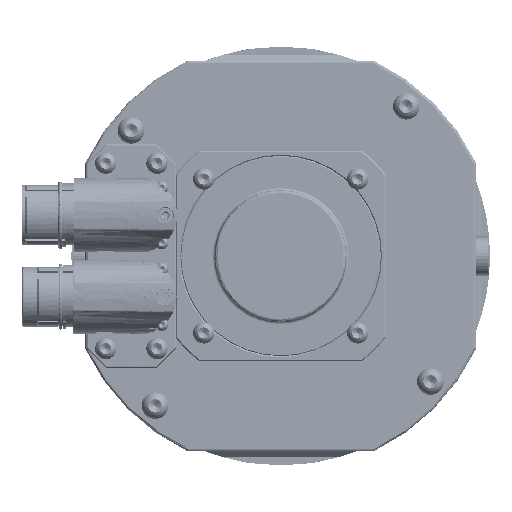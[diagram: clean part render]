
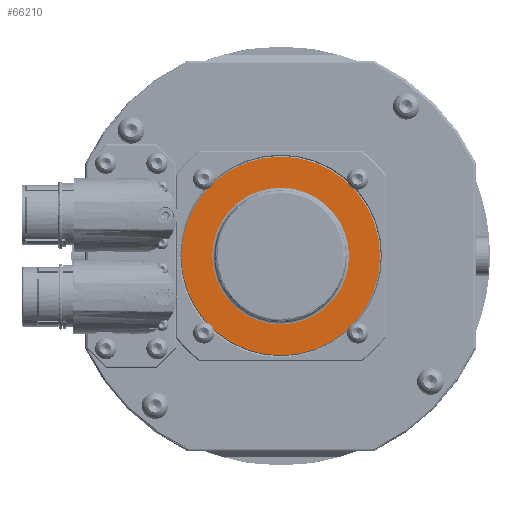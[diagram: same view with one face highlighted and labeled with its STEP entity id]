
A CAD part, left-side view. The second image highlights one B-rep face of the part: STEP entity #66210.
In plain terms, the highlighted planar face has unit normal (-1, 0, 0) as drawn and (0, 0, 1) by its records, which use the part's own axes.
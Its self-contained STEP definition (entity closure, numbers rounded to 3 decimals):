
#64503=CARTESIAN_POINT('',(0.,0.,-76.901));
#64504=DIRECTION('',(0.,0.,1.));
#64505=DIRECTION('',(-1.,0.,0.));
#64506=AXIS2_PLACEMENT_3D('',#64503,#64504,#64505);
#64508=CARTESIAN_POINT('',(0.,0.,-76.901));
#64509=DIRECTION('',(0.,0.,1.));
#64510=DIRECTION('',(1.,0.,0.));
#64511=AXIS2_PLACEMENT_3D('',#64508,#64509,#64510);
#64513=CARTESIAN_POINT('',(0.,0.,-76.901));
#64514=DIRECTION('',(0.,0.,-1.));
#64515=DIRECTION('',(0.,-1.,0.));
#64516=AXIS2_PLACEMENT_3D('',#64513,#64514,#64515);
#64518=CARTESIAN_POINT('',(0.,0.,-76.901));
#64519=DIRECTION('',(0.,0.,-1.));
#64520=DIRECTION('',(0.,1.,0.));
#64521=AXIS2_PLACEMENT_3D('',#64518,#64519,#64520);
#66073=CARTESIAN_POINT('',(-35.6,0.,-76.901));
#66074=CARTESIAN_POINT('',(35.6,0.,-76.901));
#66075=VERTEX_POINT('',#66073);
#66076=VERTEX_POINT('',#66074);
#66085=CARTESIAN_POINT('',(0.,-24.5,-76.901));
#66086=CARTESIAN_POINT('',(0.,24.5,-76.901));
#66087=VERTEX_POINT('',#66085);
#66088=VERTEX_POINT('',#66086);
#66193=CARTESIAN_POINT('',(0.,0.,-76.901));
#66194=DIRECTION('',(0.,0.,-1.));
#66195=DIRECTION('',(0.,-1.,0.));
#66196=AXIS2_PLACEMENT_3D('',#66193,#66194,#66195);
#66197=PLANE('',#66196);
#66199=ORIENTED_EDGE('',*,*,#66198,.F.);
#66201=ORIENTED_EDGE('',*,*,#66200,.F.);
#66202=EDGE_LOOP('',(#66199,#66201));
#66203=FACE_OUTER_BOUND('',#66202,.F.);
#66205=ORIENTED_EDGE('',*,*,#66204,.F.);
#66207=ORIENTED_EDGE('',*,*,#66206,.F.);
#66208=EDGE_LOOP('',(#66205,#66207));
#66209=FACE_BOUND('',#66208,.F.);
#66210=ADVANCED_FACE('',(#66203,#66209),#66197,.F.);
#64507=CIRCLE('',#64506,35.6);
#64512=CIRCLE('',#64511,35.6);
#64517=CIRCLE('',#64516,24.5);
#64522=CIRCLE('',#64521,24.5);
#66198=EDGE_CURVE('',#66075,#66076,#64507,.T.);
#66200=EDGE_CURVE('',#66076,#66075,#64512,.T.);
#66204=EDGE_CURVE('',#66087,#66088,#64517,.T.);
#66206=EDGE_CURVE('',#66088,#66087,#64522,.T.);
